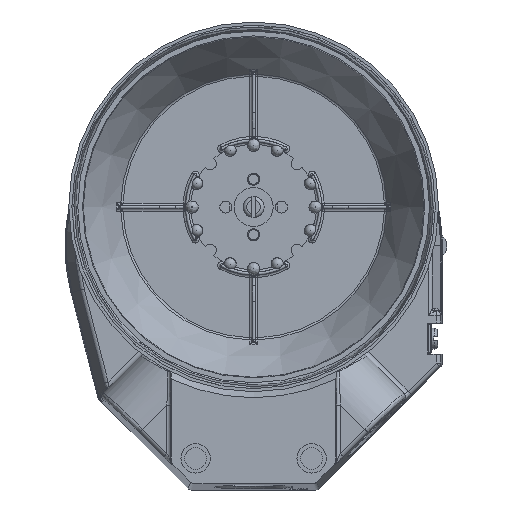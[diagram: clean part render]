
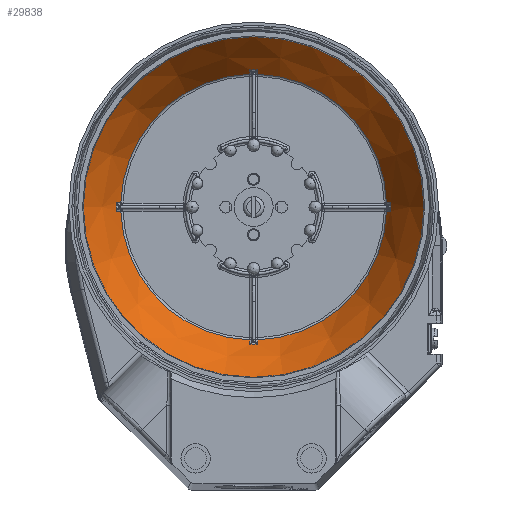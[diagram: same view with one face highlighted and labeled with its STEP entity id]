
A CAD part, top view. The second image highlights one B-rep face of the part: STEP entity #29838.
In plain terms, the highlighted conical face has half-angle 30 degrees and reference radius 49.656 mm.
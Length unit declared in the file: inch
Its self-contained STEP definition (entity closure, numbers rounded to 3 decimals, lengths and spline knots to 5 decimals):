
#4673=B_SPLINE_CURVE_WITH_KNOTS('',3,(#58344,#58345,#58346,#58347),
 .UNSPECIFIED.,.F.,.F.,(4,4),(-2.50496,-2.21163),
 .UNSPECIFIED.);
#4720=B_SPLINE_CURVE_WITH_KNOTS('',3,(#59569,#59570,#59571,#59572),
 .UNSPECIFIED.,.F.,.F.,(4,4),(-2.50496,-2.21163),
 .UNSPECIFIED.);
#4725=B_SPLINE_CURVE_WITH_KNOTS('',3,(#59646,#59647,#59648,#59649),
 .UNSPECIFIED.,.F.,.F.,(4,4),(-2.50496,-2.21163),
 .UNSPECIFIED.);
#4730=B_SPLINE_CURVE_WITH_KNOTS('',3,(#59717,#59718,#59719,#59720),
 .UNSPECIFIED.,.F.,.F.,(4,4),(-2.50496,-2.21163),
 .UNSPECIFIED.);
#4747=B_SPLINE_CURVE_WITH_KNOTS('',3,(#60417,#60418,#60419,#60420),
 .UNSPECIFIED.,.F.,.F.,(4,4),(-0.43459,-0.14126),
 .UNSPECIFIED.);
#4748=B_SPLINE_CURVE_WITH_KNOTS('',3,(#60451,#60452,#60453,#60454),
 .UNSPECIFIED.,.F.,.F.,(4,4),(-0.43436,-0.14103),
 .UNSPECIFIED.);
#4749=B_SPLINE_CURVE_WITH_KNOTS('',3,(#60485,#60486,#60487,#60488),
 .UNSPECIFIED.,.F.,.F.,(4,4),(-0.43459,-0.14126),
 .UNSPECIFIED.);
#4750=B_SPLINE_CURVE_WITH_KNOTS('',3,(#60519,#60520,#60521,#60522),
 .UNSPECIFIED.,.F.,.F.,(4,4),(-0.43459,-0.14126),
 .UNSPECIFIED.);
#7648=FACE_BOUND('',#10908,.T.);
#9067=FACE_OUTER_BOUND('',#10907,.T.);
#10907=EDGE_LOOP('',(#27109));
#10908=EDGE_LOOP('',(#27110,#27111,#27112,#27113,#27114,#27115,#27116,#27117,
#27118,#27119,#27120,#27121,#27122,#27123,#27124,#27125));
#12317=CIRCLE('',#32292,1.7754);
#12437=CIRCLE('',#32486,1.7754);
#12442=CIRCLE('',#32495,1.7754);
#12447=CIRCLE('',#32504,1.7754);
#12535=CIRCLE('',#32639,1.71767);
#12540=CIRCLE('',#32647,1.71767);
#12545=CIRCLE('',#32656,1.71767);
#12548=CIRCLE('',#32662,2.20149);
#12549=CIRCLE('',#32663,1.71767);
#14958=VERTEX_POINT('',#58341);
#14959=VERTEX_POINT('',#58343);
#14963=VERTEX_POINT('',#58370);
#15122=VERTEX_POINT('',#59566);
#15123=VERTEX_POINT('',#59568);
#15127=VERTEX_POINT('',#59595);
#15131=VERTEX_POINT('',#59643);
#15132=VERTEX_POINT('',#59645);
#15134=VERTEX_POINT('',#59666);
#15138=VERTEX_POINT('',#59714);
#15139=VERTEX_POINT('',#59716);
#15141=VERTEX_POINT('',#59737);
#15182=VERTEX_POINT('',#60415);
#15183=VERTEX_POINT('',#60449);
#15184=VERTEX_POINT('',#60483);
#15185=VERTEX_POINT('',#60517);
#15186=VERTEX_POINT('',#60524);
#18857=EDGE_CURVE('',#14958,#14959,#4673,.T.);
#18865=EDGE_CURVE('',#14959,#14963,#12317,.T.);
#19079=EDGE_CURVE('',#15122,#15123,#4720,.T.);
#19087=EDGE_CURVE('',#15123,#15127,#12437,.T.);
#19094=EDGE_CURVE('',#15131,#15132,#4725,.T.);
#19099=EDGE_CURVE('',#15132,#15134,#12442,.T.);
#19106=EDGE_CURVE('',#15138,#15139,#4730,.T.);
#19111=EDGE_CURVE('',#15139,#15141,#12447,.T.);
#19222=EDGE_CURVE('',#15141,#15182,#4747,.T.);
#19225=EDGE_CURVE('',#15182,#14958,#12535,.T.);
#19228=EDGE_CURVE('',#14963,#15183,#4748,.T.);
#19231=EDGE_CURVE('',#15183,#15122,#12540,.T.);
#19234=EDGE_CURVE('',#15127,#15184,#4749,.T.);
#19237=EDGE_CURVE('',#15184,#15131,#12545,.T.);
#19240=EDGE_CURVE('',#15134,#15185,#4750,.T.);
#19241=EDGE_CURVE('',#15186,#15186,#12548,.T.);
#19242=EDGE_CURVE('',#15185,#15138,#12549,.T.);
#27109=ORIENTED_EDGE('',*,*,#19241,.T.);
#27110=ORIENTED_EDGE('',*,*,#19242,.F.);
#27111=ORIENTED_EDGE('',*,*,#19240,.F.);
#27112=ORIENTED_EDGE('',*,*,#19099,.F.);
#27113=ORIENTED_EDGE('',*,*,#19094,.F.);
#27114=ORIENTED_EDGE('',*,*,#19237,.F.);
#27115=ORIENTED_EDGE('',*,*,#19234,.F.);
#27116=ORIENTED_EDGE('',*,*,#19087,.F.);
#27117=ORIENTED_EDGE('',*,*,#19079,.F.);
#27118=ORIENTED_EDGE('',*,*,#19231,.F.);
#27119=ORIENTED_EDGE('',*,*,#19228,.F.);
#27120=ORIENTED_EDGE('',*,*,#18865,.F.);
#27121=ORIENTED_EDGE('',*,*,#18857,.F.);
#27122=ORIENTED_EDGE('',*,*,#19225,.F.);
#27123=ORIENTED_EDGE('',*,*,#19222,.F.);
#27124=ORIENTED_EDGE('',*,*,#19111,.F.);
#27125=ORIENTED_EDGE('',*,*,#19106,.F.);
#28391=CONICAL_SURFACE('',#32661,1.95496,30.);
#29838=ADVANCED_FACE('',(#9067,#7648),#28391,.F.);
#32292=AXIS2_PLACEMENT_3D('',#58387,#38755,#38756);
#32486=AXIS2_PLACEMENT_3D('',#59612,#39188,#39189);
#32495=AXIS2_PLACEMENT_3D('',#59683,#39207,#39208);
#32504=AXIS2_PLACEMENT_3D('',#59754,#39226,#39227);
#32639=AXIS2_PLACEMENT_3D('',#60426,#39500,#39501);
#32647=AXIS2_PLACEMENT_3D('',#60459,#39516,#39517);
#32656=AXIS2_PLACEMENT_3D('',#60493,#39534,#39535);
#32661=AXIS2_PLACEMENT_3D('',#60523,#39544,#39545);
#32662=AXIS2_PLACEMENT_3D('',#60525,#39546,#39547);
#32663=AXIS2_PLACEMENT_3D('',#60526,#39548,#39549);
#38755=DIRECTION('center_axis',(0.,0.,
1.));
#38756=DIRECTION('ref_axis',(0.,1.,0.));
#39188=DIRECTION('center_axis',(0.,0.,
1.));
#39189=DIRECTION('ref_axis',(-1.,0.,0.));
#39207=DIRECTION('center_axis',(0.,0.,
1.));
#39208=DIRECTION('ref_axis',(0.,-1.,0.));
#39226=DIRECTION('center_axis',(0.,0.,
1.));
#39227=DIRECTION('ref_axis',(1.,0.,0.));
#39500=DIRECTION('center_axis',(0.,0.,
1.));
#39501=DIRECTION('ref_axis',(0.707,0.707,0.));
#39516=DIRECTION('center_axis',(0.,0.,
1.));
#39517=DIRECTION('ref_axis',(-0.707,0.707,0.));
#39534=DIRECTION('center_axis',(0.,0.,
1.));
#39535=DIRECTION('ref_axis',(-0.707,-0.707,0.));
#39544=DIRECTION('center_axis',(0.,0.,
1.));
#39545=DIRECTION('ref_axis',(1.,0.,0.));
#39546=DIRECTION('center_axis',(0.,0.,
1.));
#39547=DIRECTION('ref_axis',(1.,0.,0.));
#39548=DIRECTION('center_axis',(0.,0.,
1.));
#39549=DIRECTION('ref_axis',(0.707,-0.707,0.));
#58341=CARTESIAN_POINT('',(0.05285,2.21686,1.264));
#58343=CARTESIAN_POINT('',(0.05282,2.27462,1.364));
#58344=CARTESIAN_POINT('Ctrl Pts',(0.05285,2.21686,1.264));
#58345=CARTESIAN_POINT('Ctrl Pts',(0.05284,2.23611,
1.29733));
#58346=CARTESIAN_POINT('Ctrl Pts',(0.05283,2.25536,
1.33067));
#58347=CARTESIAN_POINT('Ctrl Pts',(0.05282,2.27462,
1.364));
#58370=CARTESIAN_POINT('',(-0.05282,2.27462,1.364));
#58387=CARTESIAN_POINT('Origin',(0.,0.5,1.364));
#59566=CARTESIAN_POINT('',(-1.71686,0.55285,1.264));
#59568=CARTESIAN_POINT('',(-1.77462,0.55282,1.364));
#59569=CARTESIAN_POINT('Ctrl Pts',(-1.71686,0.55285,
1.264));
#59570=CARTESIAN_POINT('Ctrl Pts',(-1.73611,0.55284,
1.29733));
#59571=CARTESIAN_POINT('Ctrl Pts',(-1.75536,0.55283,
1.33067));
#59572=CARTESIAN_POINT('Ctrl Pts',(-1.77462,0.55282,
1.364));
#59595=CARTESIAN_POINT('',(-1.77462,0.44718,1.364));
#59612=CARTESIAN_POINT('Origin',(0.,0.5,1.364));
#59643=CARTESIAN_POINT('',(-0.05285,-1.21686,1.264));
#59645=CARTESIAN_POINT('',(-0.05282,-1.27462,1.364));
#59646=CARTESIAN_POINT('Ctrl Pts',(-0.05285,-1.21686,
1.264));
#59647=CARTESIAN_POINT('Ctrl Pts',(-0.05284,-1.23611,
1.29733));
#59648=CARTESIAN_POINT('Ctrl Pts',(-0.05283,-1.25536,
1.33067));
#59649=CARTESIAN_POINT('Ctrl Pts',(-0.05282,-1.27462,
1.364));
#59666=CARTESIAN_POINT('',(0.05282,-1.27462,1.364));
#59683=CARTESIAN_POINT('Origin',(0.,0.5,1.364));
#59714=CARTESIAN_POINT('',(1.71686,0.44715,1.264));
#59716=CARTESIAN_POINT('',(1.77462,0.44718,1.364));
#59717=CARTESIAN_POINT('Ctrl Pts',(1.71686,0.44715,1.264));
#59718=CARTESIAN_POINT('Ctrl Pts',(1.73611,0.44716,1.29733));
#59719=CARTESIAN_POINT('Ctrl Pts',(1.75536,0.44717,1.33067));
#59720=CARTESIAN_POINT('Ctrl Pts',(1.77462,0.44718,1.364));
#59737=CARTESIAN_POINT('',(1.77462,0.55282,1.364));
#59754=CARTESIAN_POINT('Origin',(0.,0.5,1.364));
#60415=CARTESIAN_POINT('',(1.71686,0.55285,1.264));
#60417=CARTESIAN_POINT('Ctrl Pts',(1.77462,0.55282,1.364));
#60418=CARTESIAN_POINT('Ctrl Pts',(1.75536,0.55283,1.33067));
#60419=CARTESIAN_POINT('Ctrl Pts',(1.73611,0.55284,1.29733));
#60420=CARTESIAN_POINT('Ctrl Pts',(1.71686,0.55285,1.264));
#60426=CARTESIAN_POINT('Origin',(0.,0.5,1.264));
#60449=CARTESIAN_POINT('',(-0.05285,2.21686,1.264));
#60451=CARTESIAN_POINT('Ctrl Pts',(-0.05282,2.27462,
1.364));
#60452=CARTESIAN_POINT('Ctrl Pts',(-0.05283,2.25536,
1.33067));
#60453=CARTESIAN_POINT('Ctrl Pts',(-0.05284,2.23611,
1.29733));
#60454=CARTESIAN_POINT('Ctrl Pts',(-0.05285,2.21686,
1.264));
#60459=CARTESIAN_POINT('Origin',(0.,0.5,1.264));
#60483=CARTESIAN_POINT('',(-1.71686,0.44715,1.264));
#60485=CARTESIAN_POINT('Ctrl Pts',(-1.77462,0.44718,
1.364));
#60486=CARTESIAN_POINT('Ctrl Pts',(-1.75536,0.44717,
1.33067));
#60487=CARTESIAN_POINT('Ctrl Pts',(-1.73611,0.44716,1.29733));
#60488=CARTESIAN_POINT('Ctrl Pts',(-1.71686,0.44715,
1.264));
#60493=CARTESIAN_POINT('Origin',(0.,0.5,1.264));
#60517=CARTESIAN_POINT('',(0.05285,-1.21686,1.264));
#60519=CARTESIAN_POINT('Ctrl Pts',(0.05282,-1.27462,
1.364));
#60520=CARTESIAN_POINT('Ctrl Pts',(0.05283,-1.25536,
1.33067));
#60521=CARTESIAN_POINT('Ctrl Pts',(0.05284,-1.23611,
1.29733));
#60522=CARTESIAN_POINT('Ctrl Pts',(0.05285,-1.21686,
1.264));
#60523=CARTESIAN_POINT('Origin',(0.,0.5,1.675));
#60524=CARTESIAN_POINT('',(2.20149,0.5,2.102));
#60525=CARTESIAN_POINT('Origin',(0.,0.5,2.102));
#60526=CARTESIAN_POINT('Origin',(0.,0.5,1.264));
